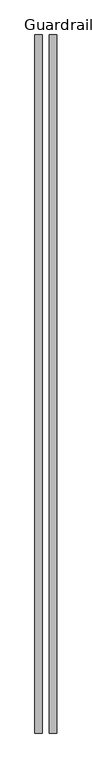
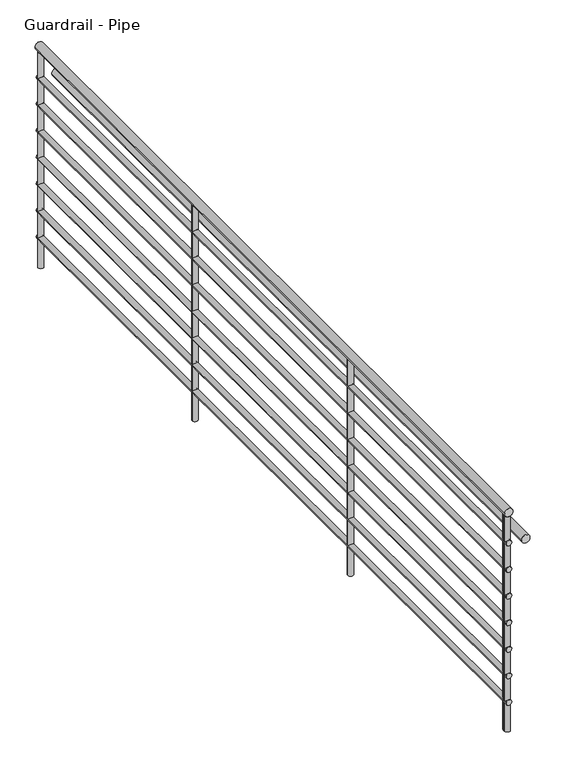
"""IFC4 building model written with IfcOpenShell, lengths in millimetres: railing geometry, Guardrail - Pipe."""

from ifc_helpers import new_model, si_unit, point, frame, frame_2d, origin, origin_with_axes, place, context, project, spatial, circle_curve, trimmed, segment, composite_curve, outline, extrude, source, transform, mapped, element, save


def guardrail_pipe_fa673746(model_context):
    return source(origin(), model_context, "Body", "SweptSolid", [
        extrude(outline(composite_curve([segment(trimmed(circle_curve(frame_2d((1047.75, -30640.9437367)), 19.05), [point((1047.75, -30621.8937367))], [point((1047.75, -30659.9937367))], False, "CARTESIAN"), True, "CONTINUOUS"), segment(trimmed(circle_curve(frame_2d((1047.75, -30640.9437367)), 19.05), [point((1047.75, -30659.9937367))], [point((1047.75, -30621.8937367))], False, "CARTESIAN"), True, "CONTINUOUS")], self_intersect=False)), frame((0.0, 6080.4816387, 0.0), z_axis=(0.0, 1.0, 0.0), x_axis=(0.0, 0.0, 1.0)), (0.0, 0.0, 1.0), 3678.2375),
        extrude(outline(composite_curve([segment(trimmed(circle_curve(frame_2d((901.7, -30640.9437367)), 12.7), [point((901.7, -30628.2437367))], [point((901.7, -30653.6437367))], False, "CARTESIAN"), True, "CONTINUOUS"), segment(trimmed(circle_curve(frame_2d((901.7, -30640.9437367)), 12.7), [point((901.7, -30653.6437367))], [point((901.7, -30628.2437367))], False, "CARTESIAN"), True, "CONTINUOUS")], self_intersect=False)), frame((0.0, 6080.4816387, 0.0), z_axis=(0.0, 1.0, 0.0), x_axis=(0.0, 0.0, 1.0)), (0.0, 0.0, 1.0), 3678.2375),
        extrude(outline(composite_curve([segment(trimmed(circle_curve(frame_2d((895.35, -30564.7437367)), 19.05), [point((895.35, -30545.6937367))], [point((895.35, -30583.7937367))], False, "CARTESIAN"), True, "CONTINUOUS"), segment(trimmed(circle_curve(frame_2d((895.35, -30564.7437367)), 19.05), [point((895.35, -30583.7937367))], [point((895.35, -30545.6937367))], False, "CARTESIAN"), True, "CONTINUOUS")], self_intersect=False)), frame((0.0, 6080.4816387, 0.0), z_axis=(0.0, 1.0, 0.0), x_axis=(0.0, 0.0, 1.0)), (0.0, 0.0, 1.0), 3678.2375),
        extrude(outline(composite_curve([segment(trimmed(circle_curve(frame_2d((774.7, -30640.9437367)), 12.7), [point((774.7, -30628.2437367))], [point((774.7, -30653.6437367))], False, "CARTESIAN"), True, "CONTINUOUS"), segment(trimmed(circle_curve(frame_2d((774.7, -30640.9437367)), 12.7), [point((774.7, -30653.6437367))], [point((774.7, -30628.2437367))], False, "CARTESIAN"), True, "CONTINUOUS")], self_intersect=False)), frame((0.0, 6080.4816387, 0.0), z_axis=(0.0, 1.0, 0.0), x_axis=(0.0, 0.0, 1.0)), (0.0, 0.0, 1.0), 3678.2375),
        extrude(outline(composite_curve([segment(trimmed(circle_curve(frame_2d((647.7, -30640.9437367)), 12.7), [point((647.7, -30628.2437367))], [point((647.7, -30653.6437367))], False, "CARTESIAN"), True, "CONTINUOUS"), segment(trimmed(circle_curve(frame_2d((647.7, -30640.9437367)), 12.7), [point((647.7, -30653.6437367))], [point((647.7, -30628.2437367))], False, "CARTESIAN"), True, "CONTINUOUS")], self_intersect=False)), frame((0.0, 6080.4816387, 0.0), z_axis=(0.0, 1.0, 0.0), x_axis=(0.0, 0.0, 1.0)), (0.0, 0.0, 1.0), 3678.2375),
        extrude(outline(composite_curve([segment(trimmed(circle_curve(frame_2d((520.7, -30640.9437367)), 12.7), [point((520.7, -30628.2437367))], [point((520.7, -30653.6437367))], False, "CARTESIAN"), True, "CONTINUOUS"), segment(trimmed(circle_curve(frame_2d((520.7, -30640.9437367)), 12.7), [point((520.7, -30653.6437367))], [point((520.7, -30628.2437367))], False, "CARTESIAN"), True, "CONTINUOUS")], self_intersect=False)), frame((0.0, 6080.4816387, 0.0), z_axis=(0.0, 1.0, 0.0), x_axis=(0.0, 0.0, 1.0)), (0.0, 0.0, 1.0), 3678.2375),
        extrude(outline(composite_curve([segment(trimmed(circle_curve(frame_2d((393.7, -30640.9437367)), 12.7), [point((393.7, -30628.2437367))], [point((393.7, -30653.6437367))], False, "CARTESIAN"), True, "CONTINUOUS"), segment(trimmed(circle_curve(frame_2d((393.7, -30640.9437367)), 12.7), [point((393.7, -30653.6437367))], [point((393.7, -30628.2437367))], False, "CARTESIAN"), True, "CONTINUOUS")], self_intersect=False)), frame((0.0, 6080.4816387, 0.0), z_axis=(0.0, 1.0, 0.0), x_axis=(0.0, 0.0, 1.0)), (0.0, 0.0, 1.0), 3678.2375),
        extrude(outline(composite_curve([segment(trimmed(circle_curve(frame_2d((266.7, -30640.9437367)), 12.7), [point((266.7, -30628.2437367))], [point((266.7, -30653.6437367))], False, "CARTESIAN"), True, "CONTINUOUS"), segment(trimmed(circle_curve(frame_2d((266.7, -30640.9437367)), 12.7), [point((266.7, -30653.6437367))], [point((266.7, -30628.2437367))], False, "CARTESIAN"), True, "CONTINUOUS")], self_intersect=False)), frame((0.0, 6080.4816387, 0.0), z_axis=(0.0, 1.0, 0.0), x_axis=(0.0, 0.0, 1.0)), (0.0, 0.0, 1.0), 3678.2375),
        extrude(outline(composite_curve([segment(trimmed(circle_curve(frame_2d((139.7, -30640.9437367)), 12.7), [point((139.7, -30628.2437367))], [point((139.7, -30653.6437367))], False, "CARTESIAN"), True, "CONTINUOUS"), segment(trimmed(circle_curve(frame_2d((139.7, -30640.9437367)), 12.7), [point((139.7, -30653.6437367))], [point((139.7, -30628.2437367))], False, "CARTESIAN"), True, "CONTINUOUS")], self_intersect=False)), frame((0.0, 6080.4816387, 0.0), z_axis=(0.0, 1.0, 0.0), x_axis=(0.0, 0.0, 1.0)), (0.0, 0.0, 1.0), 3678.2375),
        extrude(outline(composite_curve([segment(trimmed(circle_curve(frame_2d((-30640.9437367, 6101.1191387)), 12.7), [point((-30628.2437367, 6101.1191387))], [point((-30653.6437367, 6101.1191387))], False, "CARTESIAN"), True, "CONTINUOUS"), segment(trimmed(circle_curve(frame_2d((-30640.9437367, 6101.1191387)), 12.7), [point((-30653.6437367, 6101.1191387))], [point((-30628.2437367, 6101.1191387))], False, "CARTESIAN"), True, "CONTINUOUS")], self_intersect=False)), origin_with_axes(), (0.0, 0.0, 1.0), 1028.7),
        extrude(outline(composite_curve([segment(trimmed(circle_curve(frame_2d((-30640.9437367, 7320.3191387)), 12.7), [point((-30628.2437367, 7320.3191387))], [point((-30653.6437367, 7320.3191387))], False, "CARTESIAN"), True, "CONTINUOUS"), segment(trimmed(circle_curve(frame_2d((-30640.9437367, 7320.3191387)), 12.7), [point((-30653.6437367, 7320.3191387))], [point((-30628.2437367, 7320.3191387))], False, "CARTESIAN"), True, "CONTINUOUS")], self_intersect=False)), origin_with_axes(), (0.0, 0.0, 1.0), 1028.7),
        extrude(outline(composite_curve([segment(trimmed(circle_curve(frame_2d((-30640.9437367, 8539.5191387)), 12.7), [point((-30628.2437367, 8539.5191387))], [point((-30653.6437367, 8539.5191387))], False, "CARTESIAN"), True, "CONTINUOUS"), segment(trimmed(circle_curve(frame_2d((-30640.9437367, 8539.5191387)), 12.7), [point((-30653.6437367, 8539.5191387))], [point((-30628.2437367, 8539.5191387))], False, "CARTESIAN"), True, "CONTINUOUS")], self_intersect=False)), origin_with_axes(), (0.0, 0.0, 1.0), 1028.7),
        extrude(outline(composite_curve([segment(trimmed(circle_curve(frame_2d((-30640.9437367, 6093.1816387)), 12.7), [point((-30628.2437367, 6093.1816387))], [point((-30653.6437367, 6093.1816387))], False, "CARTESIAN"), True, "CONTINUOUS"), segment(trimmed(circle_curve(frame_2d((-30640.9437367, 6093.1816387)), 12.7), [point((-30653.6437367, 6093.1816387))], [point((-30628.2437367, 6093.1816387))], False, "CARTESIAN"), True, "CONTINUOUS")], self_intersect=False)), origin_with_axes(), (0.0, 0.0, 1.0), 1028.7),
        extrude(outline(composite_curve([segment(trimmed(circle_curve(frame_2d((-30640.9437367, 9746.0191387)), 12.7), [point((-30628.2437367, 9746.0191387))], [point((-30653.6437367, 9746.0191387))], False, "CARTESIAN"), True, "CONTINUOUS"), segment(trimmed(circle_curve(frame_2d((-30640.9437367, 9746.0191387)), 12.7), [point((-30653.6437367, 9746.0191387))], [point((-30628.2437367, 9746.0191387))], False, "CARTESIAN"), True, "CONTINUOUS")], self_intersect=False)), origin_with_axes(), (0.0, 0.0, 1.0), 1028.7),
    ])


if __name__ == "__main__":
    model = new_model("IFC4")
    model_context = context("Model", 3, world=origin())
    ifc_project = project(units=[si_unit("LENGTHUNIT", "METRE", prefix="MILLI")], contexts=[model_context])
    site = spatial("IfcSite", under=ifc_project)
    building = spatial("IfcBuilding", under=site)
    placement = place(None, origin())
    guardrail_pipe_shape = guardrail_pipe_fa673746(model_context)
    element("IfcRailing", 1, ObjectType="Guardrail - Pipe", at=placement, inside=building, context=model_context, shape_type="MappedRepresentation", body=[
        mapped(guardrail_pipe_shape, transform((0.0, 0.0, 0.0), x_axis=(1.0, 0.0, 0.0), y_axis=(0.0, 1.0, 0.0), z_axis=(0.0, 0.0, 1.0))),
    ])
    save(model, "model.ifc")
